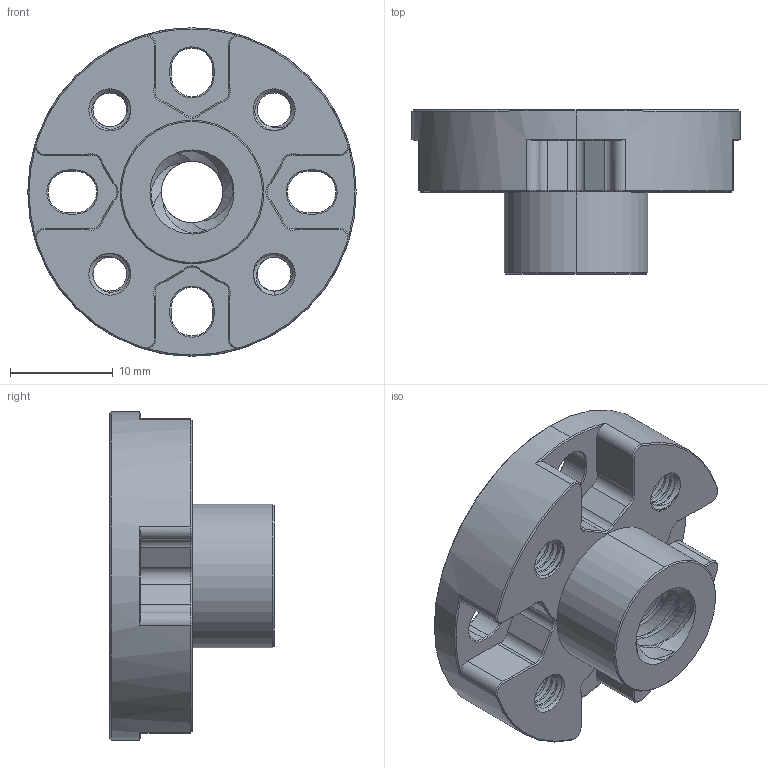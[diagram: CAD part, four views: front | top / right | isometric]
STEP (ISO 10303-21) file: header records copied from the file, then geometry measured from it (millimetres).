
FILE_DESCRIPTION (( 'STEP AP203' ), '1' );
FILE_NAME ('3505-0804-3216.STEP', '2023-11-17T20:03:06', ( '' ), ( '' ), 'SwSTEP 2.0', 'SolidWorks 2016', '' );
FILE_SCHEMA (( 'CONFIG_CONTROL_DESIGN' ));
Length unit declared in the file: millimetre
Products named in the file (1): 3505-0804-3216
Bounding box: 32 x 16 x 32 mm (x, y, z)
Volume: 5416.1 mm3; surface area: 3958.6 mm2
Topology: 1 solids, 1 shells, 408 faces, 1127 edges, 722 vertices
Faces by surface type: cylinder 241, cone 84, plane 63, bspline 20
Entity records: 74752 total; most frequent: CARTESIAN_POINT 65552, ORIENTED_EDGE 2254, DIRECTION 1607, EDGE_CURVE 1127, VERTEX_POINT 722, AXIS2_PLACEMENT_3D 591, EDGE_LOOP 427, LINE 425
